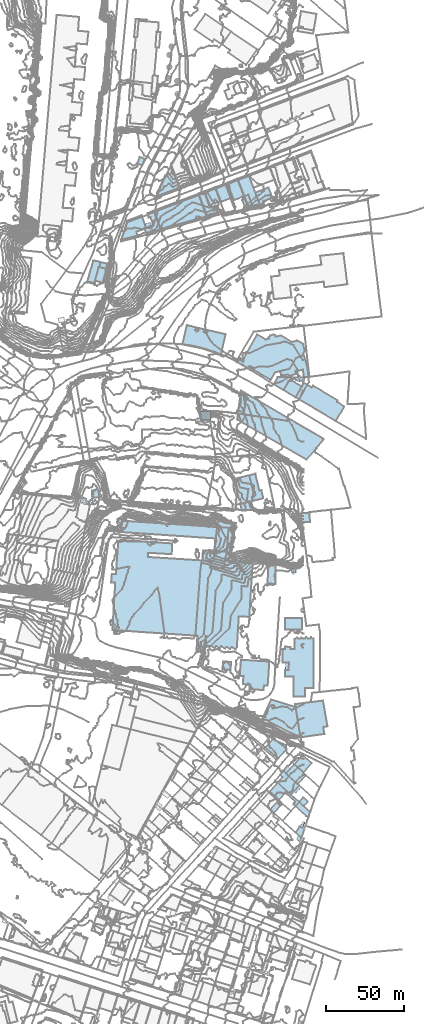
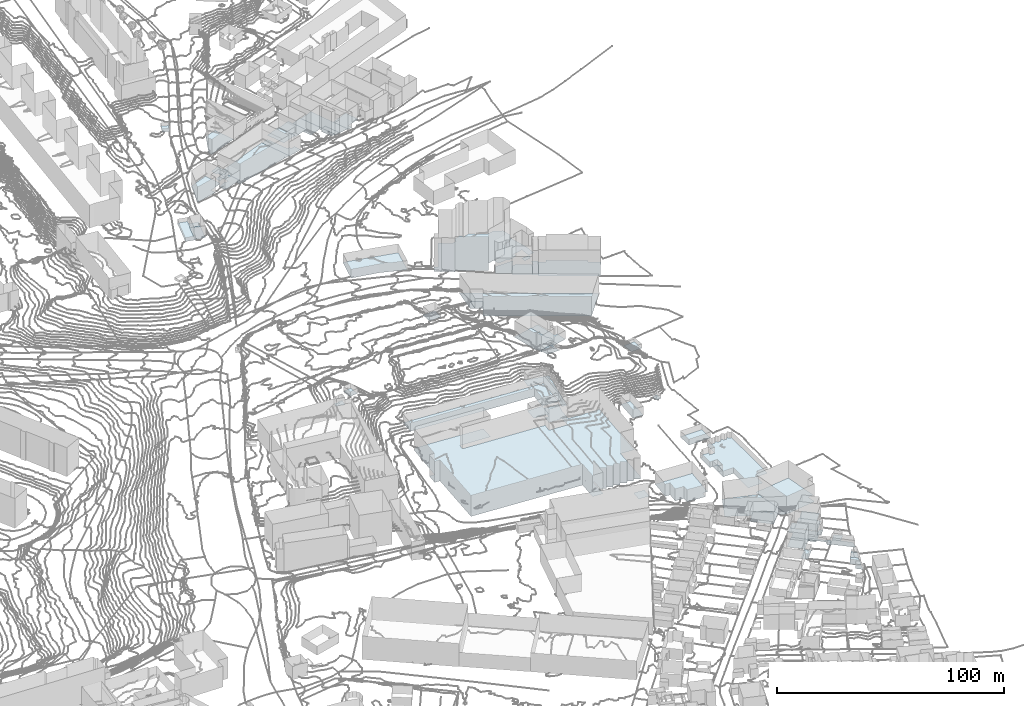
# Not in any storey, part 14 of 419: 63 footings.
"""IFC2X3 model written with IfcOpenShell, lengths in metres."""

from ifc_helpers import new_model, si_unit, frame, origin_with_axes, place, context, subcontext, project, faceted_brep, element, save


model = new_model("IFC2X3")

# Units and contexts
model_context = context("Model", 3, precision=1e-05, world=origin_with_axes())
body_context = subcontext(model_context, "Body", "Model", "MODEL_VIEW")
ifc_project = project(units=[si_unit("AREAUNIT", "SQUARE_METRE"), si_unit("LENGTHUNIT", "METRE")], contexts=[model_context])

# Footings
footing_1_placement = place(None, frame((971.4920204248, 255.6976909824, 80.3019999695), z_axis=(0.0, 0.0, 1.0), x_axis=(1.0, 0.0, 0.0)))
element("IfcFooting", 1, at=footing_1_placement, Name="Sol 0", PredefinedType="STRIP_FOOTING", context=body_context, shape_type="Brep", body=[
    faceted_brep([(3.7, -3.3999999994, 0.0), (1.9, -1.8999999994, 0.0), (0.0, 0.0, 0.0), (2.5, 3.9000000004, 0.0), (5.6, 2.0, 0.0)], [[[0, 1, 2]], [[3, 4, 0]], [[0, 2, 3]]]),
])
footing_2_placement = place(None, frame((853.2920204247, 416.1976909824, 67.9707989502), z_axis=(0.0, 0.0, 1.0), x_axis=(1.0, 0.0, 0.0)))
element("IfcFooting", 2, at=footing_2_placement, Name="Sol 0", PredefinedType="STRIP_FOOTING", context=body_context, shape_type="Brep", body=[
    faceted_brep([(23.5, 16.2000000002, 0.0), (58.4, 14.0, 0.0), (63.9, 13.6000000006, 0.0), (39.1000000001, 24.9000000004, 0.0), (38.8, 18.0, 0.0), (23.7000000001, 18.9000000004, 0.0), (4.5, 25.9000000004, 0.0), (6.0, 27.2000000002, 0.0), (0.0, 0.0, 0.0), (0.4, 5.4000000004, 0.0), (3.0, 5.2000000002, 0.0), (55.3, -34.2999999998, 0.0), (0.8, -30.5999999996, 0.0), (2.6000000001, -0.2000000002, 0.0), (59.9, -44.3999999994, 0.0), (54.7000000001, -44.2000000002, 0.0), (63.0, -41.8999999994, 0.0), (60.6000000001, -40.3999999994, 0.0), (61.0, -34.5999999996, 0.0), (67.1000000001, -40.8999999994, 0.0), (66.2000000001, -42.2000000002, 0.0), (63.8, -40.7000000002, 0.0), (70.4, -41.0, 0.0), (69.6000000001, -42.5, 0.0), (73.9, -41.3999999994, 0.0), (73.0, -42.5999999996, 0.0), (77.1000000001, -41.5999999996, 0.0), (76.2000000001, -42.7999999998, 0.0), (80.6000000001, -41.5, 0.0), (79.6000000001, -43.0, 0.0), (90.7000000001, 12.2000000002, 0.0), (88.5, -22.2000000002, 0.0), (81.8, -21.7999999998, 0.0), (72.9, 14.4000000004, 0.0), (75.4, 14.2999999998, 0.0), (75.3, 13.0, 0.0), (63.5, 9.5, 0.0), (60.5, -34.5999999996, 0.0), (72.5, 9.0, 0.0)], [[[0, 1, 2]], [[3, 4, 5]], [[6, 7, 3]], [[8, 9, 10]], [[11, 12, 13]], [[14, 15, 11]], [[16, 17, 18]], [[19, 20, 21]], [[22, 23, 19]], [[24, 25, 22]], [[26, 27, 24]], [[28, 29, 26]], [[30, 31, 32]], [[33, 34, 35]], [[0, 2, 36]], [[6, 3, 5]], [[13, 8, 10]], [[37, 14, 11]], [[21, 16, 18]], [[22, 19, 21]], [[26, 24, 22]], [[32, 28, 26]], [[35, 30, 32]], [[38, 33, 35]], [[6, 5, 0]], [[11, 13, 10]], [[18, 37, 11]], [[22, 21, 18]], [[32, 26, 22]], [[38, 35, 32]], [[10, 6, 0]], [[18, 11, 10]], [[32, 22, 18]], [[36, 38, 32]], [[10, 0, 36]], [[32, 18, 10]], [[10, 36, 32]]]),
])
footing_3_placement = place(None, frame((874.7920204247, 642.9976909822, 81.5520004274), z_axis=(0.0, 0.0, 1.0), x_axis=(1.0, 0.0, 0.0)))
element("IfcFooting", 3, at=footing_3_placement, Name="Sol 0", PredefinedType="STRIP_FOOTING", context=body_context, shape_type="Brep", body=[
    faceted_brep([(4.7000000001, 4.7000000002, 0.0), (8.1000000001, 6.0, 0.0), (10.4, -0.1999999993, 0.0), (0.0, 0.0, 0.0), (4.1000000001, 2.0, 0.0), (4.3, 1.4000000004, 0.0), (1.2000000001, -3.2999999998, 0.0), (5.6000000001, 1.8000000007, 0.0)], [[[0, 1, 2]], [[3, 4, 5]], [[2, 6, 3]], [[7, 0, 2]], [[3, 5, 7]], [[7, 2, 3]]]),
])
footing_4_placement = place(None, frame((920.1920204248, 669.5976909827, 80.9935986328), z_axis=(0.0, 0.0, 1.0), x_axis=(1.0, 0.0, 0.0)))
element("IfcFooting", 4, at=footing_4_placement, Name="Sol 0", PredefinedType="STRIP_FOOTING", context=body_context, shape_type="Brep", body=[
    faceted_brep([(0.0, 0.0, 0.0), (6.5, 2.3999999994, 0.0), (10.0, -7.0, 0.0), (3.5, -9.4000000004, 0.0)], [[[0, 1, 2]], [[2, 3, 0]]]),
])
footing_5_placement = place(None, frame((927.7920204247, 672.4976909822, 78.1616983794), z_axis=(0.0, 0.0, 1.0), x_axis=(1.0, 0.0, 0.0)))
element("IfcFooting", 5, at=footing_5_placement, Name="Sol 0", PredefinedType="STRIP_FOOTING", context=body_context, shape_type="Brep", body=[
    faceted_brep([(4.2000000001, -11.1999999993, 0.0), (0.0, 0.0, 0.0), (6.6000000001, 2.5, 0.0), (11.8, -16.1999999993, 0.0), (9.5, -11.0999999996, 0.0), (10.3, -10.7999999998, 0.0), (9.8, -9.0999999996, 0.0), (13.7000000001, -15.7999999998, 0.0)], [[[0, 1, 2]], [[3, 4, 5]], [[6, 0, 2]], [[7, 3, 5]], [[6, 2, 7]], [[7, 5, 6]]]),
])
footing_6_placement = place(None, frame((882.5920204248, 665.5976909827, 83.25880188), z_axis=(0.0, 0.0, 1.0), x_axis=(1.0, 0.0, 0.0)))
element("IfcFooting", 6, at=footing_6_placement, Name="Sol 0", PredefinedType="STRIP_FOOTING", context=body_context, shape_type="Brep", body=[
    faceted_brep([(11.1, 13.5999999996, 0.0), (14.8, 3.7000000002, 0.0), (0.7, -1.5, 0.0), (0.0, 0.0, 0.0), (5.2, 11.5, 0.0)], [[[0, 1, 2]], [[3, 4, 0]], [[0, 2, 3]]]),
])
footing_7_placement = place(None, frame((952.0920204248, 310.1976909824, 76.712000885), z_axis=(0.0, 0.0, 1.0), x_axis=(1.0, 0.0, 0.0)))
element("IfcFooting", 7, at=footing_7_placement, Name="Sol 0", PredefinedType="STRIP_FOOTING", context=body_context, shape_type="Brep", body=[
    faceted_brep([(8.1, -7.0, 0.0), (0.0, 0.0, 0.0), (4.7, 5.5, 0.0), (13.2, 1.4000000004, 0.0), (13.6, -1.0, 0.0)], [[[0, 1, 2]], [[3, 4, 0]], [[0, 2, 3]]]),
])
footing_8_placement = place(None, frame((953.4920204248, 415.3976909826, 67.8876001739), z_axis=(0.0, 0.0, 1.0), x_axis=(1.0, 0.0, 0.0)))
element("IfcFooting", 8, at=footing_8_placement, Name="Sol 0", PredefinedType="STRIP_FOOTING", context=body_context, shape_type="Brep", body=[
    faceted_brep([(5.2, -0.2999999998, 0.0), (0.0, 0.0, 0.0), (0.6, 11.7999999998, 0.0), (5.2999999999, 11.7000000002, 0.0)], [[[0, 1, 2]], [[2, 3, 0]]]),
])
footing_9_placement = place(None, frame((973.9920204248, 259.5976909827, 80.5100021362), z_axis=(0.0, 0.0, 1.0), x_axis=(1.0, 0.0, 0.0)))
element("IfcFooting", 9, at=footing_9_placement, Name="Sol 0", PredefinedType="STRIP_FOOTING", context=body_context, shape_type="Brep", body=[
    faceted_brep([(1.6, -0.9000000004, 0.0), (0.0, 0.0, 0.0), (2.4, 3.5999999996, 0.0), (4.4, 2.0, 0.0), (2.7, 2.3999999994, 0.0)], [[[0, 1, 2]], [[2, 3, 4]], [[4, 0, 2]]]),
])
footing_10_placement = place(None, frame((971.3920204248, 272.5976909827, 80.4740020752), z_axis=(0.0, 0.0, 1.0), x_axis=(1.0, 0.0, 0.0)))
element("IfcFooting", 10, at=footing_10_placement, Name="Sol 0", PredefinedType="STRIP_FOOTING", context=body_context, shape_type="Brep", body=[
    faceted_brep([(6.7999999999, -6.1000000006, 0.0), (0.0, 0.0, 0.0), (2.2999999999, 2.7000000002, 0.0), (9.3999999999, -3.7999999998, 0.0), (8.2, -7.4000000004, 0.0), (5.2, 0.0999999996, 0.0)], [[[0, 1, 2]], [[3, 4, 0]], [[2, 5, 3]], [[3, 0, 2]]]),
])
footing_11_placement = place(None, frame((964.8920204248, 281.3976909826, 79.9339981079), z_axis=(0.0, 0.0, 1.0), x_axis=(1.0, 0.0, 0.0)))
element("IfcFooting", 11, at=footing_11_placement, Name="Sol 0", PredefinedType="STRIP_FOOTING", context=body_context, shape_type="Brep", body=[
    faceted_brep([(8.7999999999, -6.0999999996, 0.0), (6.5, -8.7999999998, 0.0), (5.3999999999, -7.7999999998, 0.0), (0.0, 0.0, 0.0), (0.7999999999, 0.9000000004, 0.0), (6.0, -7.0999999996, 0.0), (5.5, -6.5999999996, 0.0), (6.2, -5.7000000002, 0.0)], [[[0, 1, 2]], [[3, 4, 0]], [[5, 6, 7]], [[0, 2, 5]], [[7, 3, 0]], [[0, 5, 7]]]),
])
footing_12_placement = place(None, frame((975.5920204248, 258.6976909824, 80.5100021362), z_axis=(0.0, 0.0, 1.0), x_axis=(1.0, 0.0, 0.0)))
element("IfcFooting", 12, at=footing_12_placement, Name="Sol 0", PredefinedType="STRIP_FOOTING", context=body_context, shape_type="Brep", body=[
    faceted_brep([(1.5, -1.0, 0.0), (0.0, 0.0, 0.0), (1.1, 3.2999999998, 0.0), (2.8, 2.9000000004, 0.0)], [[[0, 1, 2]], [[2, 3, 0]]]),
])
footing_13_placement = place(None, frame((959.9920204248, 287.6976909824, 78.2919990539), z_axis=(0.0, 0.0, 1.0), x_axis=(1.0, 0.0, 0.0)))
element("IfcFooting", 13, at=footing_13_placement, Name="Sol 0", PredefinedType="STRIP_FOOTING", context=body_context, shape_type="Brep", body=[
    faceted_brep([(8.2999999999, -7.7000000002, 0.0), (0.0, 0.0, 0.0), (3.0, 3.5, 0.0), (3.7, 7.4000000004, 0.0), (13.7, -1.7999999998, 0.0), (1.5, 4.9000000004, 0.0)], [[[0, 1, 2]], [[3, 4, 0]], [[2, 5, 3]], [[3, 0, 2]]]),
])
footing_14_placement = place(None, frame((971.1920204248, 338.0976909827, 68.7699966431), z_axis=(0.0, 0.0, 1.0), x_axis=(1.0, 0.0, 0.0)))
element("IfcFooting", 14, at=footing_14_placement, Name="Sol 0", PredefinedType="STRIP_FOOTING", context=body_context, shape_type="Brep", body=[
    faceted_brep([(18.8, -19.1000000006, 0.0), (5.5, -21.0, 0.0), (3.5, -21.2000000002, 0.0), (17.9, 2.2999999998, 0.0), (20.8, -14.2000000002, 0.0), (18.1, -14.7000000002, 0.0), (0.0, 0.0, 0.0)], [[[0, 1, 2]], [[3, 4, 5]], [[2, 6, 3]], [[5, 0, 2]], [[2, 3, 5]]]),
])
footing_15_placement = place(None, frame((964.6920204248, 393.1976909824, 67.3694023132), z_axis=(0.0, 0.0, 1.0), x_axis=(1.0, 0.0, 0.0)))
element("IfcFooting", 15, at=footing_15_placement, Name="Sol 0", PredefinedType="STRIP_FOOTING", context=body_context, shape_type="Brep", body=[
    faceted_brep([(11.0, 0.1000000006, 0.0), (11.1, -7.2999999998, 0.0), (0.1, -7.3999999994, 0.0), (0.0, 0.0, 0.0)], [[[0, 1, 2]], [[2, 3, 0]]]),
])
footing_16_placement = place(None, frame((970.5920204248, 299.4976909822, 76.8079986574), z_axis=(0.0, 0.0, 1.0), x_axis=(1.0, 0.0, 0.0)))
element("IfcFooting", 16, at=footing_16_placement, Name="Sol 0", PredefinedType="STRIP_FOOTING", context=body_context, shape_type="Brep", body=[
    faceted_brep([(5.9, -5.1999999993, 0.0), (0.0, 0.0, 0.0), (5.2, 6.0, 0.0), (11.1, 0.8000000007, 0.0)], [[[0, 1, 2]], [[2, 3, 0]]]),
])
footing_17_placement = place(None, frame((880.7920204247, 654.5976909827, 79.4694980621), z_axis=(0.0, 0.0, 1.0), x_axis=(1.0, 0.0, 0.0)))
element("IfcFooting", 17, at=footing_17_placement, Name="Sol 0", PredefinedType="STRIP_FOOTING", context=body_context, shape_type="Brep", body=[
    faceted_brep([(28.7000000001, 10.8999999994, 0.0), (34.1000000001, -3.7000000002, 0.0), (4.4, -11.7999999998, 0.0), (0.0, 0.0, 0.0)], [[[0, 1, 2]], [[2, 3, 0]]]),
])
footing_18_placement = place(None, frame((916.7920204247, 425.6976909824, 72.122000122), z_axis=(0.0, 0.0, 1.0), x_axis=(1.0, 0.0, 0.0)))
element("IfcFooting", 18, at=footing_18_placement, Name="Sol 0", PredefinedType="STRIP_FOOTING", context=body_context, shape_type="Brep", body=[
    faceted_brep([(0.0, 0.0, 0.0), (0.4, 4.1000000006, 0.0), (2.2000000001, 4.0, 0.0), (9.4, 4.9000000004, 0.0), (9.0, -0.5, 0.0), (2.7000000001, 10.6000000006, 0.0), (10.6000000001, 10.0, 0.0)], [[[0, 1, 2]], [[3, 4, 0]], [[5, 6, 3]], [[3, 0, 2]], [[2, 5, 3]]]),
])
footing_19_placement = place(None, frame((898.8920204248, 568.6976909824, 69.1679992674), z_axis=(0.0, 0.0, 1.0), x_axis=(1.0, 0.0, 0.0)))
element("IfcFooting", 19, at=footing_19_placement, Name="Sol 0", PredefinedType="STRIP_FOOTING", context=body_context, shape_type="Brep", body=[
    faceted_brep([(27.7, 6.5, 0.0), (25.2, -4.5999999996, 0.0), (24.7, -6.7000000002, 0.0), (0.0, 0.0, 0.0), (2.8999999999, 12.2999999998, 0.0), (12.7, -2.5999999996, 0.0)], [[[0, 1, 2]], [[3, 4, 0]], [[0, 2, 5]], [[5, 3, 0]]]),
])
footing_20_placement = place(None, frame((950.1920204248, 328.9976909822, 68.682399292), z_axis=(0.0, 0.0, 1.0), x_axis=(1.0, 0.0, 0.0)))
element("IfcFooting", 20, at=footing_20_placement, Name="Sol 0", PredefinedType="STRIP_FOOTING", context=body_context, shape_type="Brep", body=[
    faceted_brep([(5.6, 12.0, 0.0), (21.3, 7.2000000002, 0.0), (24.5, -12.0999999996, 0.0), (17.5, -9.0, 0.0), (0.0, 0.0, 0.0)], [[[0, 1, 2]], [[3, 4, 0]], [[0, 2, 3]]]),
])
footing_21_placement = place(None, frame((859.5920204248, 448.3976909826, 73.6399993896), z_axis=(0.0, 0.0, 1.0), x_axis=(1.0, 0.0, 0.0)))
element("IfcFooting", 21, at=footing_21_placement, Name="Sol 0", PredefinedType="STRIP_FOOTING", context=body_context, shape_type="Brep", body=[
    faceted_brep([(67.8, -12.7000000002, 0.0), (59.9, -12.0999999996, 0.0), (60.5, -4.0999999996, 0.0), (0.0, 0.0, 0.0), (0.5, 7.2999999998, 0.0), (69.0, 2.7000000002, 0.0)], [[[0, 1, 2]], [[3, 4, 5]], [[5, 0, 2]], [[2, 3, 5]]]),
])
footing_22_placement = place(None, frame((973.7920204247, 533.3976909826, 65.5460006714), z_axis=(0.0, 0.0, 1.0), x_axis=(1.0, 0.0, 0.0)))
element("IfcFooting", 22, at=footing_22_placement, Name="Sol 0", PredefinedType="STRIP_FOOTING", context=body_context, shape_type="Brep", body=[
    faceted_brep([(0.0, 0.0, 0.0), (5.1000000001, 9.4000000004, 0.0), (8.1000000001, 7.7000000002, 0.0), (28.9, -4.5, 0.0), (23.4, -13.7999999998, 0.0), (8.8, 8.7999999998, 0.0), (24.7000000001, -0.5999999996, 0.0), (24.2000000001, -1.5999999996, 0.0)], [[[0, 1, 2]], [[3, 4, 0]], [[5, 6, 7]], [[3, 0, 2]], [[2, 5, 7]], [[7, 3, 2]]]),
])
footing_23_placement = place(None, frame((840.9920204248, 475.0976909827, 85.326399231), z_axis=(0.0, 0.0, 1.0), x_axis=(1.0, 0.0, 0.0)))
element("IfcFooting", 23, at=footing_23_placement, Name="Sol 0", PredefinedType="STRIP_FOOTING", context=body_context, shape_type="Brep", body=[
    faceted_brep([(0.0, 0.0, 0.0), (4.0, 0.7000000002, 0.0), (4.7, -4.2000000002, 0.0), (0.7999999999, -4.7999999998, 0.0)], [[[0, 1, 2]], [[2, 3, 0]]]),
])
footing_24_placement = place(None, frame((961.6920204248, 551.6976909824, 67.0032022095), z_axis=(0.0, 0.0, 1.0), x_axis=(1.0, 0.0, 0.0)))
element("IfcFooting", 24, at=footing_24_placement, Name="Sol 0", PredefinedType="STRIP_FOOTING", context=body_context, shape_type="Brep", body=[
    faceted_brep([(13.6, 9.4000000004, 0.0), (14.8, 11.4000000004, 0.0), (17.5, 1.7999999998, 0.0), (6.0, 1.4000000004, 0.0), (10.0, 8.4000000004, 0.0), (0.6, -2.5, 0.0), (0.0, 0.0, 0.0), (4.8, -2.2999999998, 0.0), (2.7000000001, -2.7999999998, 0.0), (10.1, -1.8999999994, 0.0), (6.0, -3.0999999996, 0.0), (18.1, -3.5999999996, 0.0), (15.1, -4.0999999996, 0.0), (14.6, 0.9000000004, 0.0), (9.8, -0.2000000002, 0.0)], [[[0, 1, 2]], [[3, 4, 0]], [[5, 6, 3]], [[7, 8, 5]], [[9, 10, 7]], [[11, 12, 13]], [[0, 2, 11]], [[7, 5, 3]], [[14, 9, 7]], [[0, 11, 13]], [[7, 3, 0]], [[0, 13, 14]], [[14, 7, 0]]]),
])
footing_25_placement = place(None, frame((935.6920204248, 356.1976909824, 68.0809967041), z_axis=(0.0, 0.0, 1.0), x_axis=(1.0, 0.0, 0.0)))
element("IfcFooting", 25, at=footing_25_placement, Name="Sol 0", PredefinedType="STRIP_FOOTING", context=body_context, shape_type="Brep", body=[
    faceted_brep([(0.8, 10.2999999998, 0.0), (19.0, 9.2000000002, 0.0), (17.9, -6.2999999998, 0.0), (2.4, -0.2000000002, 0.0), (0.0, 0.0, 0.0), (6.3, -5.5999999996, 0.0), (2.0, -5.2999999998, 0.0), (15.3, -9.0999999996, 0.0), (6.2000000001, -8.5, 0.0), (15.5, -6.0999999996, 0.0)], [[[0, 1, 2]], [[3, 4, 0]], [[5, 6, 3]], [[7, 8, 5]], [[0, 2, 9]], [[5, 3, 0]], [[9, 7, 5]], [[5, 0, 9]]]),
])
footing_26_placement = place(None, frame((934.8920204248, 526.3976909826, 65.8939987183), z_axis=(0.0, 0.0, 1.0), x_axis=(1.0, 0.0, 0.0)))
element("IfcFooting", 26, at=footing_26_placement, Name="Sol 0", PredefinedType="STRIP_FOOTING", context=body_context, shape_type="Brep", body=[
    faceted_brep([(0.0, 0.0, 0.0), (1.7999999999, 12.5999999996, 0.0), (54.7, -18.4000000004, 0.0), (43.5, -31.5999999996, 0.0), (2.1, -7.5999999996, 0.0), (4.8999999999, -2.7999999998, 0.0)], [[[0, 1, 2]], [[3, 4, 5]], [[5, 0, 2]], [[2, 3, 5]]]),
])
footing_27_placement = place(None, frame((963.6920204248, 539.3976909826, 66.1481985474), z_axis=(0.0, 0.0, 1.0), x_axis=(1.0, 0.0, 0.0)))
element("IfcFooting", 27, at=footing_27_placement, Name="Sol 0", PredefinedType="STRIP_FOOTING", context=body_context, shape_type="Brep", body=[
    faceted_brep([(7.8, -4.5999999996, 0.0), (0.0, 0.0, 0.0), (3.3, 5.7000000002, 0.0), (5.5, 6.0, 0.0), (11.6, 2.4000000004, 0.0)], [[[0, 1, 2]], [[3, 4, 0]], [[0, 2, 3]]]),
])
footing_28_placement = place(None, frame((924.6920204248, 360.3976909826, 67.922800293), z_axis=(0.0, 0.0, 1.0), x_axis=(1.0, 0.0, 0.0)))
element("IfcFooting", 28, at=footing_28_placement, Name="Sol 0", PredefinedType="STRIP_FOOTING", context=body_context, shape_type="Brep", body=[
    faceted_brep([(5.5, 4.7000000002, 0.0), (5.1, -0.4000000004, 0.0), (0.0, 0.0, 0.0), (0.3, 5.0999999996, 0.0)], [[[0, 1, 2]], [[2, 3, 0]]]),
])
footing_29_placement = place(None, frame((963.6920204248, 295.0976909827, 78.1581996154), z_axis=(0.0, 0.0, 1.0), x_axis=(1.0, 0.0, 0.0)))
element("IfcFooting", 29, at=footing_29_placement, Name="Sol 0", PredefinedType="STRIP_FOOTING", context=body_context, shape_type="Brep", body=[
    faceted_brep([(1.6, -1.5, 0.0), (0.0, 0.0, 0.0), (2.8, 3.2000000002, 0.0), (4.3, 1.7999999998, 0.0)], [[[0, 1, 2]], [[2, 3, 0]]]),
])
footing_30_placement = place(None, frame((921.0920204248, 451.6976909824, 74.3155002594), z_axis=(0.0, 0.0, 1.0), x_axis=(1.0, 0.0, 0.0)))
element("IfcFooting", 30, at=footing_30_placement, Name="Sol 0", PredefinedType="STRIP_FOOTING", context=body_context, shape_type="Brep", body=[
    faceted_brep([(7.5, -0.5999999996, 0.0), (0.0, 0.0, 0.0), (0.7, 4.7999999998, 0.0), (7.6, -21.2000000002, 0.0), (5.1, -21.0999999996, 0.0), (6.3, -16.0, 0.0), (12.1, 2.4000000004, 0.0)], [[[0, 1, 2]], [[3, 4, 5]], [[0, 2, 6]], [[3, 5, 0]], [[0, 6, 3]]]),
])
footing_31_placement = place(None, frame((974.7920204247, 460.3976909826, 71.9800033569), z_axis=(0.0, 0.0, 1.0), x_axis=(1.0, 0.0, 0.0)))
element("IfcFooting", 31, at=footing_31_placement, Name="Sol 0", PredefinedType="STRIP_FOOTING", context=body_context, shape_type="Brep", body=[
    faceted_brep([(6.0, -5.5, 0.0), (0.8, -5.7000000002, 0.0), (0.0, 0.0, 0.0), (5.5, 0.4000000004, 0.0)], [[[0, 1, 2]], [[2, 3, 0]]]),
])
footing_32_placement = place(None, frame((936.0920204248, 466.3976909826, 79.3064013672), z_axis=(0.0, 0.0, 1.0), x_axis=(1.0, 0.0, 0.0)))
element("IfcFooting", 32, at=footing_32_placement, Name="Sol 0", PredefinedType="STRIP_FOOTING", context=body_context, shape_type="Brep", body=[
    faceted_brep([(6.1, 1.5999999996, 0.0), (7.3, -3.9000000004, 0.0), (1.1, -4.0999999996, 0.0), (0.0, 0.0, 0.0)], [[[0, 1, 2]], [[2, 3, 0]]]),
])
footing_33_placement = place(None, frame((913.0920204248, 666.8976909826, 81.3671994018), z_axis=(0.0, 0.0, 1.0), x_axis=(1.0, 0.0, 0.0)))
element("IfcFooting", 33, at=footing_33_placement, Name="Sol 0", PredefinedType="STRIP_FOOTING", context=body_context, shape_type="Brep", body=[
    faceted_brep([(3.3, -8.7999999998, 0.0), (0.0, 0.0, 0.0), (7.1, 2.7000000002, 0.0), (10.5, -6.2999999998, 0.0)], [[[0, 1, 2]], [[2, 3, 0]]]),
])
footing_34_placement = place(None, frame((969.0920204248, 425.1976909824, 67.7818008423), z_axis=(0.0, 0.0, 1.0), x_axis=(1.0, 0.0, 0.0)))
element("IfcFooting", 34, at=footing_34_placement, Name="Sol 0", PredefinedType="STRIP_FOOTING", context=body_context, shape_type="Brep", body=[
    faceted_brep([(2.4, 0.4000000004, 0.0), (2.8, -2.5999999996, 0.0), (0.4, -3.0, 0.0), (0.0, 0.0, 0.0)], [[[0, 1, 2]], [[2, 3, 0]]]),
])
footing_35_placement = place(None, frame((910.4920204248, 525.6976909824, 71.4103997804), z_axis=(0.0, 0.0, 1.0), x_axis=(1.0, 0.0, 0.0)))
element("IfcFooting", 35, at=footing_35_placement, Name="Sol 0", PredefinedType="STRIP_FOOTING", context=body_context, shape_type="Brep", body=[
    faceted_brep([(6.2, 0.0, 0.0), (6.2999999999, -5.2999999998, 0.0), (0.2999999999, -5.3999999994, 0.0), (0.0, 0.0, 0.0)], [[[0, 1, 2]], [[2, 3, 0]]]),
])
footing_36_placement = place(None, frame((971.8920204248, 251.7976909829, 79.9519989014), z_axis=(0.0, 0.0, 1.0), x_axis=(1.0, 0.0, 0.0)))
element("IfcFooting", 36, at=footing_36_placement, Name="Sol 0", PredefinedType="STRIP_FOOTING", context=body_context, shape_type="Brep", body=[
    faceted_brep([(3.2999999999, 0.5, 0.0), (2.7, -2.5, 0.0), (0.0, 0.0, 0.0), (1.5, 2.0, 0.0)], [[[0, 1, 2]], [[2, 3, 0]]]),
])
footing_37_placement = place(None, frame((934.0920204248, 520.4976909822, 69.7540005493), z_axis=(0.0, 0.0, 1.0), x_axis=(1.0, 0.0, 0.0)))
element("IfcFooting", 37, at=footing_37_placement, Name="Sol 0", PredefinedType="STRIP_FOOTING", context=body_context, shape_type="Brep", body=[
    faceted_brep([(0.0, 0.0, 0.0), (0.8, 5.9000000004, 0.0), (5.7, 3.1000000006, 0.0), (2.9, -1.6999999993, 0.0)], [[[0, 1, 2]], [[2, 3, 0]]]),
])
footing_38_placement = place(None, frame((876.4920204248, 652.7976909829, 83.2692002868), z_axis=(0.0, 0.0, 1.0), x_axis=(1.0, 0.0, 0.0)))
element("IfcFooting", 38, at=footing_38_placement, Name="Sol 0", PredefinedType="STRIP_FOOTING", context=body_context, shape_type="Brep", body=[
    faceted_brep([(4.2999999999, 1.7999999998, 0.0), (6.4, -3.8000000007, 0.0), (3.0, -5.1000000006, 0.0), (0.9, -2.9000000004, 0.0), (0.0, 0.0, 0.0), (2.0, -2.4000000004, 0.0)], [[[0, 1, 2]], [[3, 4, 0]], [[0, 2, 5]], [[5, 3, 0]]]),
])
footing_39_placement = place(None, frame((963.2920204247, 364.7976909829, 68.5444026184), z_axis=(0.0, 0.0, 1.0), x_axis=(1.0, 0.0, 0.0)))
element("IfcFooting", 39, at=footing_39_placement, Name="Sol 0", PredefinedType="STRIP_FOOTING", context=body_context, shape_type="Brep", body=[
    faceted_brep([(1.5, -9.1000000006, 0.0), (1.5, -4.7000000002, 0.0), (3.8, -4.8000000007, 0.0), (14.2000000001, -21.8000000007, 0.0), (6.9, -21.8000000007, 0.0), (6.9, -9.0, 0.0), (19.8, 15.1999999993, 0.0), (19.8, -16.3000000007, 0.0), (14.3, -16.4000000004, 0.0), (17.2000000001, 15.1999999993, 0.0), (18.1000000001, 16.1999999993, 0.0), (19.1000000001, 15.1999999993, 0.0), (14.2000000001, 15.1999999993, 0.0), (15.0, 16.1999999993, 0.0), (16.2000000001, 15.2999999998, 0.0), (11.2000000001, 15.1999999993, 0.0), (12.1000000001, 16.0999999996, 0.0), (13.0, 15.1999999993, 0.0), (7.4, 15.0999999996, 0.0), (9.0, 16.0999999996, 0.0), (10.0, 15.1999999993, 0.0), (1.5, 10.0999999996, 0.0), (5.0, 10.0, 0.0), (4.9, 8.5, 0.0), (0.0, 0.0, 0.0), (0.0, 8.5, 0.0), (1.5, 8.5999999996, 0.0), (3.9, 0.0, 0.0), (7.5, 8.5, 0.0)], [[[0, 1, 2]], [[3, 4, 5]], [[6, 7, 8]], [[9, 10, 11]], [[12, 13, 14]], [[15, 16, 17]], [[18, 19, 20]], [[21, 22, 23]], [[24, 25, 26]], [[5, 0, 2]], [[8, 3, 5]], [[11, 6, 8]], [[12, 14, 9]], [[18, 20, 15]], [[26, 21, 23]], [[27, 24, 26]], [[5, 2, 27]], [[11, 8, 5]], [[18, 15, 17]], [[27, 26, 23]], [[11, 5, 27]], [[18, 17, 12]], [[27, 23, 28]], [[9, 11, 27]], [[18, 12, 9]], [[9, 27, 28]], [[28, 18, 9]]]),
])
footing_40_placement = place(None, frame((842.7920204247, 609.4976909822, 84.8344024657), z_axis=(0.0, 0.0, 1.0), x_axis=(1.0, 0.0, 0.0)))
element("IfcFooting", 40, at=footing_40_placement, Name="Sol 0", PredefinedType="STRIP_FOOTING", context=body_context, shape_type="Brep", body=[
    faceted_brep([(2.5, 8.8000000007, 0.0), (7.6000000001, 7.7000000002, 0.0), (5.0, -1.1999999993, 0.0), (0.0, 0.0, 0.0)], [[[0, 1, 2]], [[2, 3, 0]]]),
])
footing_41_placement = place(None, frame((934.2920204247, 557.1976909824, 67.2743998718), z_axis=(0.0, 0.0, 1.0), x_axis=(1.0, 0.0, 0.0)))
element("IfcFooting", 41, at=footing_41_placement, Name="Sol 0", PredefinedType="STRIP_FOOTING", context=body_context, shape_type="Brep", body=[
    faceted_brep([(3.1000000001, -1.5, 0.0), (2.8, -1.7999999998, 0.0), (0.0, 0.0, 0.0), (8.6000000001, -3.8999999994, 0.0), (8.0, -4.7999999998, 0.0), (23.9, -6.5, 0.0), (21.2000000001, -11.2000000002, 0.0), (37.4, 2.9000000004, 0.0), (33.4, -4.0999999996, 0.0), (43.1000000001, 7.6000000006, 0.0), (41.0, 3.9000000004, 0.0), (38.3, 13.9000000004, 0.0), (42.0, 11.9000000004, 0.0), (24.5, 16.4000000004, 0.0), (27.5, 17.2999999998, 0.0), (34.7000000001, 13.1000000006, 0.0), (23.2000000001, 17.9000000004, 0.0), (24.4, 17.2000000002, 0.0), (19.9, 15.9000000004, 0.0), (20.7000000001, 17.2000000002, 0.0), (3.4, 1.9000000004, 0.0), (12.5, 17.9000000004, 0.0), (17.8, 14.7000000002, 0.0), (1.7000000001, 2.9000000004, 0.0), (20.1000000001, 15.2999999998, 0.0)], [[[0, 1, 2]], [[3, 4, 0]], [[5, 6, 3]], [[7, 8, 5]], [[9, 10, 7]], [[11, 12, 9]], [[13, 14, 15]], [[16, 17, 13]], [[18, 19, 16]], [[20, 21, 22]], [[2, 23, 20]], [[3, 0, 2]], [[7, 5, 3]], [[11, 9, 7]], [[18, 16, 13]], [[20, 22, 24]], [[3, 2, 20]], [[11, 7, 3]], [[18, 13, 15]], [[3, 20, 24]], [[15, 11, 3]], [[24, 18, 15]], [[15, 3, 24]]]),
])
footing_42_placement = place(None, frame((957.3920204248, 543.0976909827, 66.6909973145), z_axis=(0.0, 0.0, 1.0), x_axis=(1.0, 0.0, 0.0)))
element("IfcFooting", 42, at=footing_42_placement, Name="Sol 0", PredefinedType="STRIP_FOOTING", context=body_context, shape_type="Brep", body=[
    faceted_brep([(6.2999999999, -3.7000000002, 0.0), (0.0, 0.0, 0.0), (2.7, 4.5999999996, 0.0), (11.5, 4.5999999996, 0.0)], [[[0, 1, 2]], [[2, 3, 0]]]),
])
footing_43_placement = place(None, frame((869.9920204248, 684.6976909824, 87.3539981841), z_axis=(0.0, 0.0, 1.0), x_axis=(1.0, 0.0, 0.0)))
element("IfcFooting", 43, at=footing_43_placement, Name="Sol 0", PredefinedType="STRIP_FOOTING", context=body_context, shape_type="Brep", body=[
    faceted_brep([(0.0, 0.0, 0.0), (1.6, 4.2000000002, 0.0), (4.7999999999, 2.9000000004, 0.0), (3.1, -1.2000000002, 0.0)], [[[0, 1, 2]], [[2, 3, 0]]]),
])
footing_44_placement = place(None, frame((832.8920204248, 467.3976909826, 85.0730003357), z_axis=(0.0, 0.0, 1.0), x_axis=(1.0, 0.0, 0.0)))
element("IfcFooting", 44, at=footing_44_placement, Name="Sol 0", PredefinedType="STRIP_FOOTING", context=body_context, shape_type="Brep", body=[
    faceted_brep([(0.0, 0.0, 0.0), (0.2, 2.2000000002, 0.0), (2.2999999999, 1.7999999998, 0.0), (4.2, 2.2000000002, 0.0), (4.0, -0.9000000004, 0.0), (2.2999999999, 2.2000000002, 0.0)], [[[0, 1, 2]], [[3, 4, 0]], [[2, 5, 3]], [[3, 0, 2]]]),
])
footing_45_placement = place(None, frame((938.7920204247, 663.7976909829, 77.6844009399), z_axis=(0.0, 0.0, 1.0), x_axis=(1.0, 0.0, 0.0)))
element("IfcFooting", 45, at=footing_45_placement, Name="Sol 0", PredefinedType="STRIP_FOOTING", context=body_context, shape_type="Brep", body=[
    faceted_brep([(2.4, 1.0, 0.0), (5.4, -6.6000000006, 0.0), (2.7000000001, -7.1000000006, 0.0), (0.0, 0.0, 0.0)], [[[0, 1, 2]], [[2, 3, 0]]]),
])
footing_46_placement = place(None, frame((845.7920204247, 618.1976909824, 84.6286019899), z_axis=(0.0, 0.0, 1.0), x_axis=(1.0, 0.0, 0.0)))
element("IfcFooting", 46, at=footing_46_placement, Name="Sol 0", PredefinedType="STRIP_FOOTING", context=body_context, shape_type="Brep", body=[
    faceted_brep([(5.5, 2.1000000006, 0.0), (4.6000000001, -1.0, 0.0), (0.0, 0.0, 0.0), (0.5, 3.2999999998, 0.0)], [[[0, 1, 2]], [[2, 3, 0]]]),
])
footing_47_placement = place(None, frame((909.4920204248, 665.4976909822, 79.1334014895), z_axis=(0.0, 0.0, 1.0), x_axis=(1.0, 0.0, 0.0)))
element("IfcFooting", 47, at=footing_47_placement, Name="Sol 0", PredefinedType="STRIP_FOOTING", context=body_context, shape_type="Brep", body=[
    faceted_brep([(5.4, -14.5999999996, 0.0), (0.0, 0.0, 0.0), (3.6, 1.4000000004, 0.0), (11.1, -9.1999999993, 0.0), (12.4, -12.6999999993, 0.0), (7.7999999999, -9.1999999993, 0.0), (8.7999999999, -8.7999999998, 0.0), (9.2999999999, -9.8999999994, 0.0)], [[[0, 1, 2]], [[3, 4, 0]], [[5, 6, 7]], [[0, 2, 5]], [[7, 3, 0]], [[0, 5, 7]]]),
])
footing_48_placement = place(None, frame((874.8920204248, 645.9976909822, 83.9579986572), z_axis=(0.0, 0.0, 1.0), x_axis=(1.0, 0.0, 0.0)))
element("IfcFooting", 48, at=footing_48_placement, Name="Sol 0", PredefinedType="STRIP_FOOTING", context=body_context, shape_type="Brep", body=[
    faceted_brep([(3.2, 1.2000000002, 0.0), (4.0, -1.0, 0.0), (0.7, -2.2999999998, 0.0), (0.0, 0.0, 0.0)], [[[0, 1, 2]], [[2, 3, 0]]]),
])
footing_49_placement = place(None, frame((971.4920204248, 534.7976909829, 65.9439987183), z_axis=(0.0, 0.0, 1.0), x_axis=(1.0, 0.0, 0.0)))
element("IfcFooting", 49, at=footing_49_placement, Name="Sol 0", PredefinedType="STRIP_FOOTING", context=body_context, shape_type="Brep", body=[
    faceted_brep([(2.2999999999, -1.4000000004, 0.0), (0.0, 0.0, 0.0), (3.7999999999, 7.0, 0.0), (4.9, 9.5, 0.0), (7.4, 8.0, 0.0), (4.2, 6.7999999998, 0.0)], [[[0, 1, 2]], [[3, 4, 0]], [[0, 2, 5]], [[5, 3, 0]]]),
])
footing_50_placement = place(None, frame((837.8920204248, 608.5976909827, 85.9510025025), z_axis=(0.0, 0.0, 1.0), x_axis=(1.0, 0.0, 0.0)))
element("IfcFooting", 50, at=footing_50_placement, Name="Sol 0", PredefinedType="STRIP_FOOTING", context=body_context, shape_type="Brep", body=[
    faceted_brep([(8.3999999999, 12.8999999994, 0.0), (7.8999999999, 9.5999999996, 0.0), (7.3999999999, 9.7000000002, 0.0), (0.0, 0.0, 0.0), (3.8999999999, 14.0, 0.0), (4.8999999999, 0.8999999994, 0.0), (4.3999999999, -1.1000000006, 0.0)], [[[0, 1, 2]], [[3, 4, 0]], [[5, 6, 3]], [[3, 0, 2]], [[2, 5, 3]]]),
])
footing_51_placement = place(None, frame((931.9920204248, 482.4976909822, 78.2491983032), z_axis=(0.0, 0.0, 1.0), x_axis=(1.0, 0.0, 0.0)))
element("IfcFooting", 51, at=footing_51_placement, Name="Sol 0", PredefinedType="STRIP_FOOTING", context=body_context, shape_type="Brep", body=[
    faceted_brep([(11.5, -11.6999999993, 0.0), (12.0, -14.0999999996, 0.0), (10.2, -14.5, 0.0), (13.7999999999, -10.0999999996, 0.0), (13.0, -11.3999999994, 0.0), (12.2999999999, -7.6999999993, 0.0), (13.4, -8.3999999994, 0.0), (0.0, 0.0, 0.0), (9.7999999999, 2.3000000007, 0.0), (3.9, -13.0, 0.0), (3.2999999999, -13.1999999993, 0.0), (4.6, -15.8999999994, 0.0)], [[[0, 1, 2]], [[3, 4, 0]], [[5, 6, 3]], [[7, 8, 5]], [[9, 10, 7]], [[2, 11, 9]], [[5, 3, 0]], [[9, 7, 5]], [[0, 2, 9]], [[9, 5, 0]]]),
])
footing_52_placement = place(None, frame((859.6920204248, 635.7976909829, 82.8152991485), z_axis=(0.0, 0.0, 1.0), x_axis=(1.0, 0.0, 0.0)))
element("IfcFooting", 52, at=footing_52_placement, Name="Sol 0", PredefinedType="STRIP_FOOTING", context=body_context, shape_type="Brep", body=[
    faceted_brep([(9.8, 5.1999999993, 0.0), (10.6, 2.6999999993, 0.0), (0.0, 0.0, 0.0), (15.9, 7.8999999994, 0.0), (15.8, 7.3999999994, 0.0), (3.9, 12.1999999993, 0.0), (13.1, 15.6999999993, 0.0)], [[[0, 1, 2]], [[3, 4, 0]], [[5, 6, 3]], [[0, 2, 5]], [[5, 3, 0]]]),
])
footing_53_placement = place(None, frame((934.3920204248, 674.9976909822, 77.6424002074), z_axis=(0.0, 0.0, 1.0), x_axis=(1.0, 0.0, 0.0)))
element("IfcFooting", 53, at=footing_53_placement, Name="Sol 0", PredefinedType="STRIP_FOOTING", context=body_context, shape_type="Brep", body=[
    faceted_brep([(0.0, 0.0, 0.0), (7.0, 2.6000000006, 0.0), (14.3999999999, -17.0, 0.0), (6.7999999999, -10.1999999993, 0.0), (4.3999999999, -11.1999999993, 0.0), (9.7999999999, -17.7999999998, 0.0)], [[[0, 1, 2]], [[3, 4, 0]], [[2, 5, 3]], [[3, 0, 2]]]),
])
footing_54_placement = place(None, frame((945.6920204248, 665.9976909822, 77.320702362), z_axis=(0.0, 0.0, 1.0), x_axis=(1.0, 0.0, 0.0)))
element("IfcFooting", 54, at=footing_54_placement, Name="Sol 0", PredefinedType="STRIP_FOOTING", context=body_context, shape_type="Brep", body=[
    faceted_brep([(4.8, -5.5999999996, 0.0), (5.6, -7.5, 0.0), (3.1, -8.0, 0.0), (8.5, 3.4000000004, 0.0), (11.1, -3.2999999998, 0.0), (0.0, 0.0, 0.0)], [[[0, 1, 2]], [[3, 4, 0]], [[2, 5, 3]], [[3, 0, 2]]]),
])
footing_55_placement = place(None, frame((973.2920204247, 547.4976909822, 66.6039978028), z_axis=(0.0, 0.0, 1.0), x_axis=(1.0, 0.0, 0.0)))
element("IfcFooting", 55, at=footing_55_placement, Name="Sol 0", PredefinedType="STRIP_FOOTING", context=body_context, shape_type="Brep", body=[
    faceted_brep([(0.0, 0.0, 0.0), (3.5, 0.1000000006, 0.0), (4.0, 0.1000000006, 0.0), (3.5, -1.6999999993, 0.0), (0.3, -2.3999999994, 0.0)], [[[0, 1, 2]], [[3, 4, 0]], [[0, 2, 3]]]),
])
footing_56_placement = place(None, frame((941.7920204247, 484.7976909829, 78.0858007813), z_axis=(0.0, 0.0, 1.0), x_axis=(1.0, 0.0, 0.0)))
element("IfcFooting", 56, at=footing_56_placement, Name="Sol 0", PredefinedType="STRIP_FOOTING", context=body_context, shape_type="Brep", body=[
    faceted_brep([(9.0, -14.7000000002, 0.0), (2.2000000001, -16.4000000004, 0.0), (1.7000000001, -14.0, 0.0), (6.5, -9.8000000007, 0.0), (7.8, -9.6000000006, 0.0), (0.0, 0.0, 0.0), (3.9, 1.0, 0.0), (3.6000000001, -10.7000000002, 0.0), (2.5, -10.0, 0.0), (3.2000000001, -13.7000000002, 0.0), (4.0, -12.4000000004, 0.0)], [[[0, 1, 2]], [[3, 4, 0]], [[5, 6, 3]], [[7, 8, 5]], [[0, 2, 9]], [[5, 3, 0]], [[0, 9, 10]], [[7, 5, 0]], [[0, 10, 7]]]),
])
footing_57_placement = place(None, frame((970.1920204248, 282.1976909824, 80.2448001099), z_axis=(0.0, 0.0, 1.0), x_axis=(1.0, 0.0, 0.0)))
element("IfcFooting", 57, at=footing_57_placement, Name="Sol 0", PredefinedType="STRIP_FOOTING", context=body_context, shape_type="Brep", body=[
    faceted_brep([(1.3, -1.0999999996, 0.0), (0.0, 0.0, 0.0), (2.7000000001, 3.0, 0.0), (4.0, 1.9000000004, 0.0)], [[[0, 1, 2]], [[2, 3, 0]]]),
])
footing_58_placement = place(None, frame((955.0920204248, 270.4976909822, 79.9700004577), z_axis=(0.0, 0.0, 1.0), x_axis=(1.0, 0.0, 0.0)))
element("IfcFooting", 58, at=footing_58_placement, Name="Sol 0", PredefinedType="STRIP_FOOTING", context=body_context, shape_type="Brep", body=[
    faceted_brep([(2.4, -2.1999999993, 0.0), (1.4, -1.3999999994, 0.0), (0.0, 0.0, 0.0), (5.0, 5.4000000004, 0.0), (7.3, 3.2000000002, 0.0)], [[[0, 1, 2]], [[3, 4, 0]], [[0, 2, 3]]]),
])
footing_59_placement = place(None, frame((964.6920204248, 364.7976909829, 68.6889976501), z_axis=(0.0, 0.0, 1.0), x_axis=(1.0, 0.0, 0.0)))
element("IfcFooting", 59, at=footing_59_placement, Name="Sol 0", PredefinedType="STRIP_FOOTING", context=body_context, shape_type="Brep", body=[
    faceted_brep([(2.4, -4.8000000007, 0.0), (0.1, -4.7000000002, 0.0), (0.0, 0.0, 0.0), (2.5, 0.0, 0.0)], [[[0, 1, 2]], [[2, 3, 0]]]),
])
footing_60_placement = place(None, frame((911.6920204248, 430.1976909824, 73.525499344), z_axis=(0.0, 0.0, 1.0), x_axis=(1.0, 0.0, 0.0)))
element("IfcFooting", 60, at=footing_60_placement, Name="Sol 0", PredefinedType="STRIP_FOOTING", context=body_context, shape_type="Brep", body=[
    faceted_brep([(7.3, -0.5, 0.0), (0.0, 0.0, 0.0), (0.4, 6.2999999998, 0.0), (7.8, 6.1000000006, 0.0)], [[[0, 1, 2]], [[2, 3, 0]]]),
])
footing_61_placement = place(None, frame((973.6920204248, 275.2976909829, 80.483001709), z_axis=(0.0, 0.0, 1.0), x_axis=(1.0, 0.0, 0.0)))
element("IfcFooting", 61, at=footing_61_placement, Name="Sol 0", PredefinedType="STRIP_FOOTING", context=body_context, shape_type="Brep", body=[
    faceted_brep([(2.9, -2.6000000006, 0.0), (0.0, 0.0, 0.0), (2.6, 3.0, 0.0), (5.6, 0.3999999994, 0.0)], [[[0, 1, 2]], [[2, 3, 0]]]),
])
footing_62_placement = place(None, frame((954.8920204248, 282.0976909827, 79.1539997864), z_axis=(0.0, 0.0, 1.0), x_axis=(1.0, 0.0, 0.0)))
element("IfcFooting", 62, at=footing_62_placement, Name="Sol 0", PredefinedType="STRIP_FOOTING", context=body_context, shape_type="Brep", body=[
    faceted_brep([(0.0, 0.0, 0.0), (5.1, 5.5999999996, 0.0), (10.7999999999, 0.2000000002, 0.0), (5.8999999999, -5.2999999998, 0.0)], [[[0, 1, 2]], [[2, 3, 0]]]),
])
footing_63_placement = place(None, frame((965.2920204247, 293.5976909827, 78.5780014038), z_axis=(0.0, 0.0, 1.0), x_axis=(1.0, 0.0, 0.0)))
element("IfcFooting", 63, at=footing_63_placement, Name="Sol 0", PredefinedType="STRIP_FOOTING", context=body_context, shape_type="Brep", body=[
    faceted_brep([(7.5, -6.7999999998, 0.0), (0.0, 0.0, 0.0), (5.3, 5.8999999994, 0.0), (12.7000000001, -1.0, 0.0)], [[[0, 1, 2]], [[2, 3, 0]]]),
])

save(model, "model.ifc")
